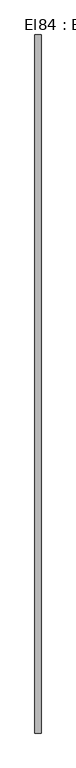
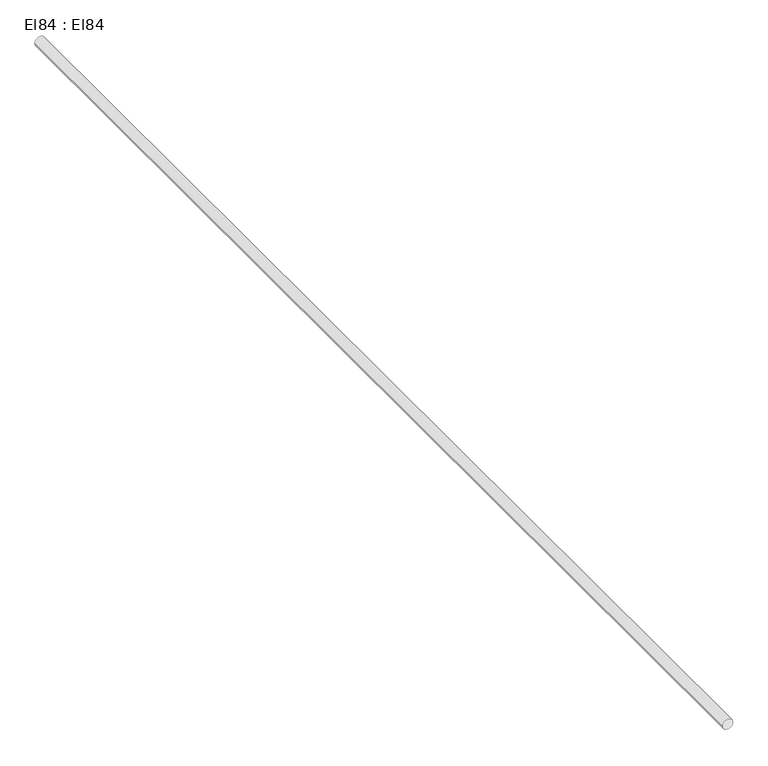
"""IFC4 building model written with IfcOpenShell, lengths in millimetres: cable carrier segment geometry, El84 : El84."""

from ifc_helpers import new_model, si_unit, point, frame, frame_2d, origin, place, context, project, spatial, circle_curve, trimmed, segment, composite_curve, outline, extrude, source, transform, mapped, element, save


def el84_el84_67267f66(model_context):
    return source(origin(), model_context, "Body", "SweptSolid", [
        extrude(outline(composite_curve([segment(trimmed(circle_curve(frame_2d((2950.0, 22367.5)), 9.5), [point((2950.0, 22358.0))], [point((2950.0, 22377.0))], False, "CARTESIAN"), True, "CONTINUOUS"), segment(trimmed(circle_curve(frame_2d((2950.0, 22367.5)), 9.5), [point((2950.0, 22377.0))], [point((2950.0, 22358.0))], False, "CARTESIAN"), True, "CONTINUOUS")], self_intersect=False)), frame((0.0, 16538.8, 0.0), z_axis=(0.0, 1.0, 0.0), x_axis=(0.0, 0.0, 1.0)), (0.0, 0.0, 1.0), 2155.0),
    ])


if __name__ == "__main__":
    model = new_model("IFC4")
    model_context = context("Model", 3, world=origin())
    ifc_project = project(units=[si_unit("LENGTHUNIT", "METRE", prefix="MILLI")], contexts=[model_context])
    site = spatial("IfcSite", under=ifc_project)
    building = spatial("IfcBuilding", under=site)
    placement = place(None, origin())
    el84_el84_shape = el84_el84_67267f66(model_context)
    element("IfcCableCarrierSegment", 1, ObjectType="El84 : El84", at=placement, inside=building, context=model_context, shape_type="MappedRepresentation", body=[
        mapped(el84_el84_shape, transform((0.0, 0.0, 0.0), x_axis=(1.0, 0.0, 0.0), y_axis=(0.0, 1.0, 0.0), z_axis=(0.0, 0.0, 1.0))),
    ])
    save(model, "model.ifc")
